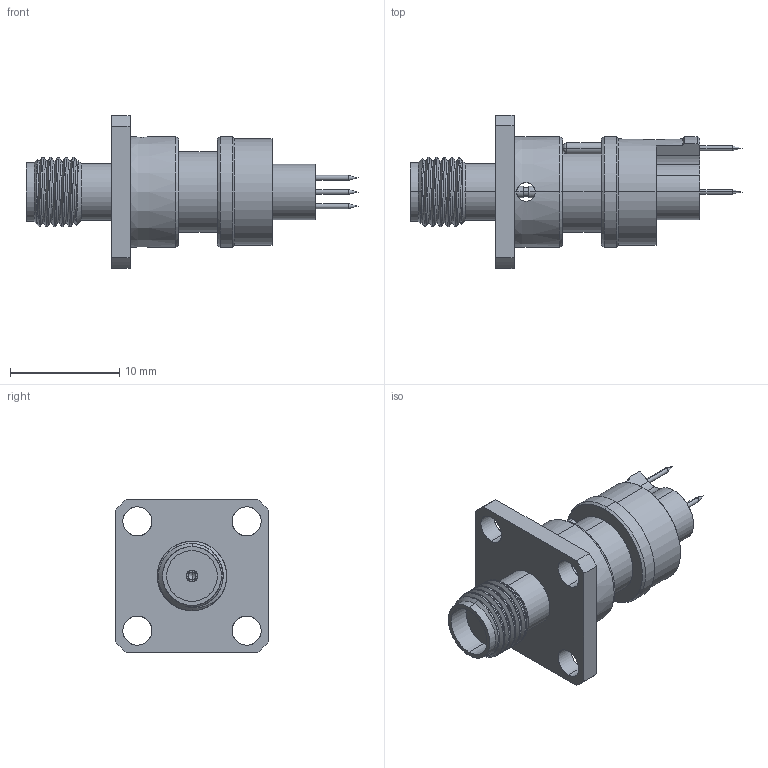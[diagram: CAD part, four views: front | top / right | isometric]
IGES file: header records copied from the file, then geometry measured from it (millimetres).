
Start section: SolidWorks IGES file using analytic representation for surfaces
Global section: file name: Z:\probe solid model mockups\Solidworks models\IGES Files\K-50H-S-SPL-01B-119 IGES files\K-50H-S-SPL-01B-119 RECD.IGS; native system: SolidWorks 2006 by SolidWorks Corporation; preprocessor: SolidWorks 2006 by SolidWorks Corporation; author: tsakatani; date: 080108.084200; units: inch
Bounding box: 30.4 x 14 x 14 mm (x, y, z)
Surface area: 1410.9 mm2 (no closed solid volume)
Topology: 0 solids, 0 shells, 143 faces, 2255 edges, 2247 vertices
Faces by surface type: revolution 107, bspline 36
